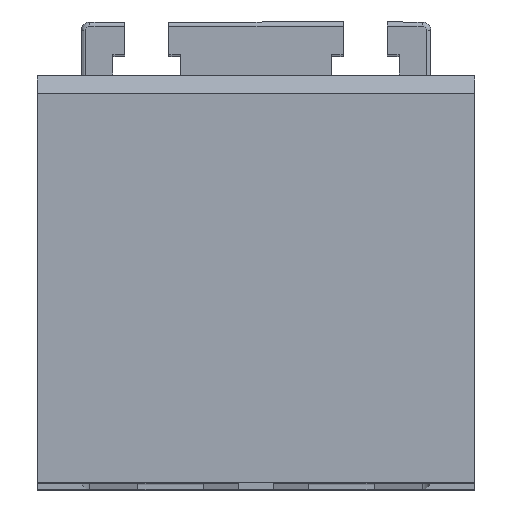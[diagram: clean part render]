
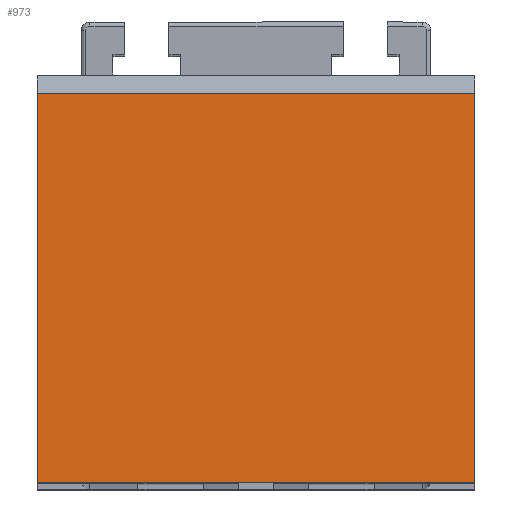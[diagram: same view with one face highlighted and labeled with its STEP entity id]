
A CAD part, top view. The second image highlights one B-rep face of the part: STEP entity #973.
In plain terms, the highlighted planar face has unit normal (0, 0, 1).
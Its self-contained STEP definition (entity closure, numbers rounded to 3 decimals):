
#148 = VERTEX_POINT ( 'NONE', #1523 ) ;
#181 = EDGE_CURVE ( 'NONE', #148, #2535, #1574, .T. ) ;
#237 = VECTOR ( 'NONE', #5099, 1000. ) ;
#278 = ORIENTED_EDGE ( 'NONE', *, *, #181, .T. ) ;
#624 = EDGE_CURVE ( 'NONE', #832, #148, #4537, .T. ) ;
#690 = DIRECTION ( 'NONE',  ( 0., 0., -1. ) ) ;
#730 = CARTESIAN_POINT ( 'NONE',  ( 100., 0., 45. ) ) ;
#832 = VERTEX_POINT ( 'NONE', #3835 ) ;
#972 = CARTESIAN_POINT ( 'NONE',  ( 0., 0., 45. ) ) ;
#973 = ADVANCED_FACE ( 'NONE', ( #1205 ), #4054, .F. ) ;
#976 = CARTESIAN_POINT ( 'NONE',  ( 100., 0., 45. ) ) ;
#1205 = FACE_OUTER_BOUND ( 'NONE', #5505, .T. ) ;
#1270 = VECTOR ( 'NONE', #1613, 1000. ) ;
#1300 = ORIENTED_EDGE ( 'NONE', *, *, #5809, .F. ) ;
#1523 = CARTESIAN_POINT ( 'NONE',  ( 0., 89., 45. ) ) ;
#1574 = LINE ( 'NONE', #972, #1765 ) ;
#1613 = DIRECTION ( 'NONE',  ( 0., -1., 0. ) ) ;
#1667 = AXIS2_PLACEMENT_3D ( 'NONE', #730, #690, #3029 ) ;
#1728 = CARTESIAN_POINT ( 'NONE',  ( 100., 89., 45. ) ) ;
#1765 = VECTOR ( 'NONE', #4452, 1000. ) ;
#1948 = ORIENTED_EDGE ( 'NONE', *, *, #6990, .F. ) ;
#2366 = VECTOR ( 'NONE', #3910, 1000. ) ;
#2535 = VERTEX_POINT ( 'NONE', #7254 ) ;
#2745 = CARTESIAN_POINT ( 'NONE',  ( 100., 0., 45. ) ) ;
#2906 = VERTEX_POINT ( 'NONE', #5084 ) ;
#2911 = ORIENTED_EDGE ( 'NONE', *, *, #624, .T. ) ;
#3029 = DIRECTION ( 'NONE',  ( 0., 1., 0. ) ) ;
#3835 = CARTESIAN_POINT ( 'NONE',  ( 100., 89., 45. ) ) ;
#3910 = DIRECTION ( 'NONE',  ( -1., 0., 0. ) ) ;
#4054 = PLANE ( 'NONE',  #1667 ) ;
#4350 = LINE ( 'NONE', #976, #1270 ) ;
#4452 = DIRECTION ( 'NONE',  ( 0., -1., 0. ) ) ;
#4537 = LINE ( 'NONE', #1728, #237 ) ;
#5084 = CARTESIAN_POINT ( 'NONE',  ( 100., 0., 45. ) ) ;
#5099 = DIRECTION ( 'NONE',  ( -1., 0., 0. ) ) ;
#5505 = EDGE_LOOP ( 'NONE', ( #1948, #2911, #278, #1300 ) ) ;
#5809 = EDGE_CURVE ( 'NONE', #2906, #2535, #6082, .T. ) ;
#6082 = LINE ( 'NONE', #2745, #2366 ) ;
#6990 = EDGE_CURVE ( 'NONE', #832, #2906, #4350, .T. ) ;
#7254 = CARTESIAN_POINT ( 'NONE',  ( 0., 0., 45. ) ) ;
